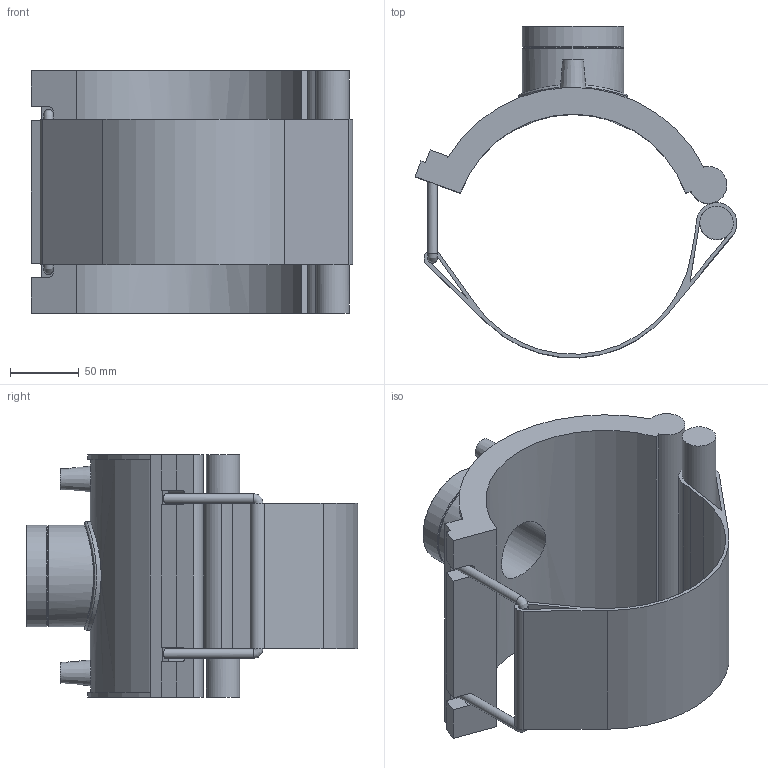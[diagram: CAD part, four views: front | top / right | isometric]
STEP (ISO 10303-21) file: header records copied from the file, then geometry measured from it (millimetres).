
FILE_DESCRIPTION(/* description */ ('PLASSON TRANSITION SADDLE 6''''DIPS x 2"NPT'),/* implementation_level */ '2;1');
FILE_NAME(/* name */ 'C:\Dropbox\KIMPROJECTS-Inventor 2019\99-16-3568-Processing Inch\ASTM ElectroFusion 2021\5938D\5938D00306055.ipt.stp',/* time_stamp */ '2021-08-30T09:52:03+03:00',/* author */ ('KIM'),/* organization */ (''),/* preprocessor_version */ 'ST-DEVELOPER v17.2',/* originating_system */ 'Autodesk Inventor 2019',/* authorisation */ '');
FILE_SCHEMA (('AUTOMOTIVE_DESIGN { 1 0 10303 214 3 1 1 }'));
Length unit declared in the file: inch
Products named in the file (1): 5938D00306055
Bounding box: 233.85 x 241.17 x 176.02 mm (x, y, z)
Volume: 1158993.2 mm3; surface area: 239579.1 mm2
Topology: 1 solids, 1 shells, 78 faces, 196 edges, 128 vertices
Faces by surface type: plane 42, cylinder 28, cone 5, torus 2, bspline 1
Full cylindrical faces by diameter (mm): 4 x2, 6.98 x2, 10 x2, 24.296 x1, 45.325 x1, 56.656 x1, 72.653 x1, 73.653 x2, 79.318 x1
Entity records: 2820 total; most frequent: CARTESIAN_POINT 829, DIRECTION 414, ORIENTED_EDGE 394, EDGE_CURVE 197, AXIS2_PLACEMENT_3D 150, VERTEX_POINT 128, LINE 114, VECTOR 114
